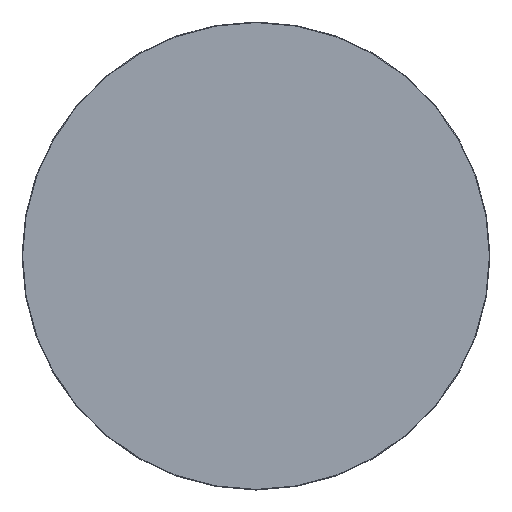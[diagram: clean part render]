
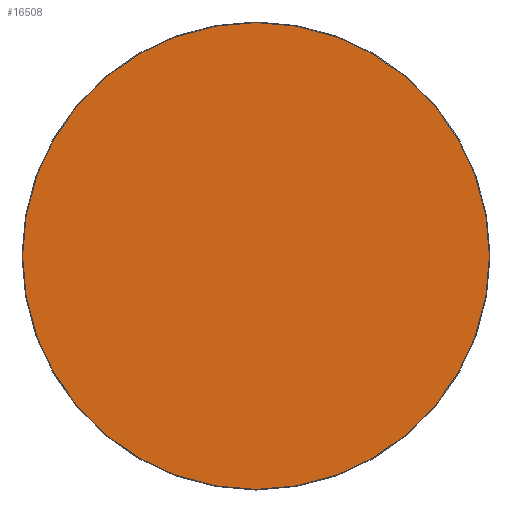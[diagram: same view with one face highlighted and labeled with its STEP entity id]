
A CAD part, top view. The second image highlights one B-rep face of the part: STEP entity #16508.
In plain terms, the highlighted planar face has unit normal (0, 0, 1).
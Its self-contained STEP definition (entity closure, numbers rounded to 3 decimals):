
#16433=CARTESIAN_POINT('',(0.,0.,20.));
#16434=DIRECTION('',(1.,0.,0.));
#16435=DIRECTION('',(0.,0.,1.));
#16436=AXIS2_PLACEMENT_3D('',#16433,#16435,#16434);
#16437=PLANE('',#16436);
#16438=CARTESIAN_POINT('',(-0.5,-598.5,20.));
#16439=VERTEX_POINT('',#16438);
#16440=CARTESIAN_POINT('',(0.5,-598.5,20.));
#16441=VERTEX_POINT('',#16440);
#16442=CARTESIAN_POINT('',(-0.5,-598.5,20.));
#16443=DIRECTION('',(1.,0.,0.));
#16444=VECTOR('',#16443,1.);
#16445=LINE('',#16442,#16444);
#16446=EDGE_CURVE('',#16439,#16441,#16445,.T.);
#16447=ORIENTED_EDGE('E105',*,*,#16446,.T.);
#16448=CARTESIAN_POINT('',(598.5,-0.5,20.));
#16449=VERTEX_POINT('',#16448);
#16450=CARTESIAN_POINT('',(0.5,-0.5,20.));
#16451=DIRECTION('',(0.,-1.,0.));
#16452=DIRECTION('',(0.,-0.,1.));
#16453=AXIS2_PLACEMENT_3D('',#16450,#16452,#16451);
#16454=CIRCLE('',#16453,598.);
#16455=EDGE_CURVE('',#16441,#16449,#16454,.T.);
#16456=ORIENTED_EDGE('E107',*,*,#16455,.T.);
#16457=CARTESIAN_POINT('',(598.5,0.5,20.));
#16458=VERTEX_POINT('',#16457);
#16459=CARTESIAN_POINT('',(598.5,-0.5,20.));
#16460=DIRECTION('',(0.,1.,0.));
#16461=VECTOR('',#16460,1.);
#16462=LINE('',#16459,#16461);
#16463=EDGE_CURVE('',#16449,#16458,#16462,.T.);
#16464=ORIENTED_EDGE('E109',*,*,#16463,.T.);
#16465=CARTESIAN_POINT('',(0.5,598.5,20.));
#16466=VERTEX_POINT('',#16465);
#16467=CARTESIAN_POINT('',(0.5,0.5,20.));
#16468=DIRECTION('',(1.,0.,0.));
#16469=DIRECTION('',(0.,0.,1.));
#16470=AXIS2_PLACEMENT_3D('',#16467,#16469,#16468);
#16471=CIRCLE('',#16470,598.);
#16472=EDGE_CURVE('',#16458,#16466,#16471,.T.);
#16473=ORIENTED_EDGE('E111',*,*,#16472,.T.);
#16474=CARTESIAN_POINT('',(-0.5,598.5,20.));
#16475=VERTEX_POINT('',#16474);
#16476=CARTESIAN_POINT('',(0.5,598.5,20.));
#16477=DIRECTION('',(-1.,0.,0.));
#16478=VECTOR('',#16477,1.);
#16479=LINE('',#16476,#16478);
#16480=EDGE_CURVE('',#16466,#16475,#16479,.T.);
#16481=ORIENTED_EDGE('E113',*,*,#16480,.T.);
#16482=CARTESIAN_POINT('',(-598.5,0.5,20.));
#16483=VERTEX_POINT('',#16482);
#16484=CARTESIAN_POINT('',(-0.5,0.5,20.));
#16485=DIRECTION('',(0.,1.,0.));
#16486=DIRECTION('',(0.,0.,1.));
#16487=AXIS2_PLACEMENT_3D('',#16484,#16486,#16485);
#16488=CIRCLE('',#16487,598.);
#16489=EDGE_CURVE('',#16475,#16483,#16488,.T.);
#16490=ORIENTED_EDGE('E115',*,*,#16489,.T.);
#16491=CARTESIAN_POINT('',(-598.5,-0.5,20.));
#16492=VERTEX_POINT('',#16491);
#16493=CARTESIAN_POINT('',(-598.5,0.5,20.));
#16494=DIRECTION('',(0.,-1.,0.));
#16495=VECTOR('',#16494,1.);
#16496=LINE('',#16493,#16495);
#16497=EDGE_CURVE('',#16483,#16492,#16496,.T.);
#16498=ORIENTED_EDGE('E117',*,*,#16497,.T.);
#16499=CARTESIAN_POINT('',(-0.5,-0.5,20.));
#16500=DIRECTION('',(-1.,0.,0.));
#16501=DIRECTION('',(0.,0.,1.));
#16502=AXIS2_PLACEMENT_3D('',#16499,#16501,#16500);
#16503=CIRCLE('',#16502,598.);
#16504=EDGE_CURVE('',#16492,#16439,#16503,.T.);
#16505=ORIENTED_EDGE('E119',*,*,#16504,.T.);
#16506=EDGE_LOOP('',(#16447,#16456,#16464,#16473,#16481,#16490,#16498,#16505));
#16507=FACE_OUTER_BOUND('',#16506,.T.);
#16508=ADVANCED_FACE('F2',(#16507),#16437,.T.);
